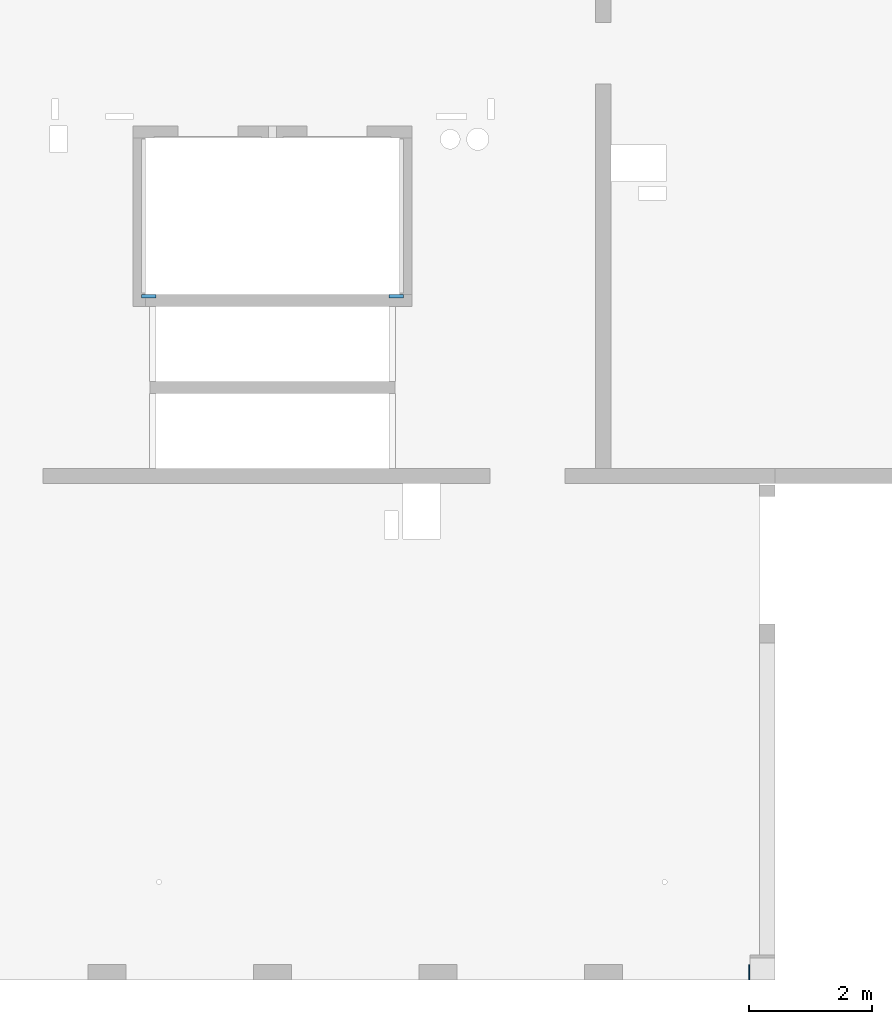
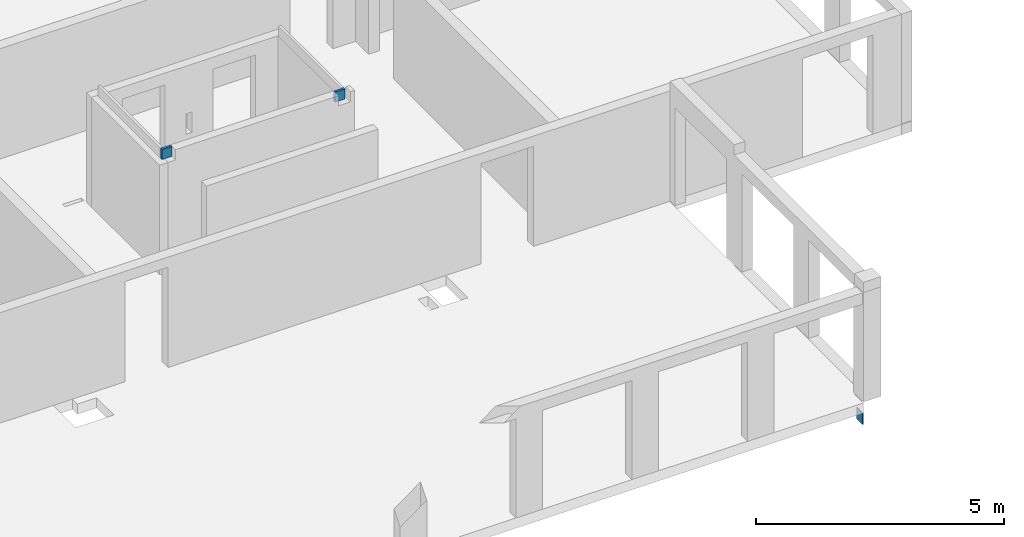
# One storey, part 5 of 8: 3 walls.
"""IFC2X3 building model written with IfcOpenShell, lengths in millimetres."""

from ifc_helpers import new_model, entity, si_unit, converted_unit, derived_unit, direction, frame, frame_2d, origin, place, context, subcontext, project, spatial, rectangle, extrude, material, layer, layer_set, layer_usage, type_object, element, save


model = new_model("IFC2X3")

# Units and contexts
model_context = context("Model", 3, precision=0.01, world=origin(), true_north=direction((6.12303176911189e-17, 1.0)))
body_context = subcontext(model_context, "Body", "Model", "MODEL_VIEW")
ifc_project = project(units=[si_unit("LENGTHUNIT", "METRE", prefix="MILLI"), si_unit("AREAUNIT", "SQUARE_METRE"), si_unit("VOLUMEUNIT", "CUBIC_METRE"), converted_unit("PLANEANGLEUNIT", "DEGREE", entity("IfcRatioMeasure", 0.0174532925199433), si_unit("PLANEANGLEUNIT", "RADIAN"), dimensions=[0, 0, 0, 0, 0, 0, 0]), si_unit("MASSUNIT", "GRAM", prefix="KILO"), derived_unit("MASSDENSITYUNIT", [(si_unit("MASSUNIT", "GRAM", prefix="KILO"), 1), (si_unit("LENGTHUNIT", "METRE"), -3)]), si_unit("TIMEUNIT", "SECOND"), si_unit("FREQUENCYUNIT", "HERTZ"), si_unit("THERMODYNAMICTEMPERATUREUNIT", "DEGREE_CELSIUS"), derived_unit("THERMALTRANSMITTANCEUNIT", [(si_unit("MASSUNIT", "GRAM", prefix="KILO"), 1), (si_unit("THERMODYNAMICTEMPERATUREUNIT", "KELVIN"), -1), (si_unit("TIMEUNIT", "SECOND"), -3)]), derived_unit("VOLUMETRICFLOWRATEUNIT", [(si_unit("LENGTHUNIT", "METRE"), 3), (si_unit("TIMEUNIT", "SECOND"), -1)]), si_unit("ELECTRICCURRENTUNIT", "AMPERE"), si_unit("ELECTRICVOLTAGEUNIT", "VOLT"), si_unit("POWERUNIT", "WATT"), si_unit("FORCEUNIT", "NEWTON", prefix="KILO"), si_unit("ILLUMINANCEUNIT", "LUX"), si_unit("LUMINOUSFLUXUNIT", "LUMEN"), si_unit("LUMINOUSINTENSITYUNIT", "CANDELA"), derived_unit("USERDEFINED", [(si_unit("MASSUNIT", "GRAM", prefix="KILO"), -1), (si_unit("LENGTHUNIT", "METRE"), -2), (si_unit("TIMEUNIT", "SECOND"), 3), (si_unit("LUMINOUSFLUXUNIT", "LUMEN"), 1)]), derived_unit("LINEARVELOCITYUNIT", [(si_unit("LENGTHUNIT", "METRE"), 1), (si_unit("TIMEUNIT", "SECOND"), -1)]), si_unit("PRESSUREUNIT", "PASCAL"), derived_unit("USERDEFINED", [(si_unit("LENGTHUNIT", "METRE"), -2), (si_unit("MASSUNIT", "GRAM", prefix="KILO"), 1), (si_unit("TIMEUNIT", "SECOND"), -2)])], contexts=[model_context])

# Site, building, storey
site_placement = place(None, origin())
site = spatial("IfcSite", under=ifc_project, at=site_placement, Name="Default", CompositionType="ELEMENT")
building_placement = place(site_placement, origin())
building = spatial("IfcBuilding", under=site, at=building_placement, Name="niet gebruiken", CompositionType="ELEMENT")
storey_placement = place(building_placement, frame((0.0, 0.0, 39330.0)))
storey = spatial("IfcBuildingStorey", under=building, at=storey_placement, Name="13 dertiende verdieping", CompositionType="ELEMENT", Elevation=39330.0)

# Walls
ifc_material_1 = material(Name="NLRS_f2_beton ihwg")
ifc_layer_1 = layer(ifc_material_1, 250.0)
ifc_layer_set_1 = layer_set([ifc_layer_1], Name="Basic Wall:NLRS_21.21_WA_beton ihwg d=250_gen")
ifc_layer_usage_1 = layer_usage(ifc_layer_set_1, "AXIS2", "NEGATIVE", 125.0)
wall_type_1 = type_object("IfcWallType", Name="Basic Wall:NLRS_21.21_WA_beton ihwg d=250_gen", PredefinedType="STANDARD", material=ifc_layer_set_1)
wall_1_placement = place(storey_placement, frame((50970.0, 28881.0, -620.0)))
element("IfcWallStandardCase", 1, at=wall_1_placement, inside=storey, type_object=wall_type_1, material=ifc_layer_usage_1, Name="Basic Wall:NLRS_21.21_WA_beton ihwg d=250_gen", ObjectType="Basic Wall:NLRS_21.21_WA_beton ihwg d=250_gen", context=body_context, shape_type="SweptSolid", body=[
    extrude(rectangle(XDim=19.999999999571, YDim=250.000000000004, at=frame_2d((9.99999999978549, 1.63424829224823e-13), x_axis=(-1.0, 0.0))), origin(), (0.0, 0.0, 1.0), 280.000000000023),
])
ifc_material_2 = material(Name="NLRS_f2_beton prefab")
ifc_layer_2 = layer(ifc_material_2, 60.0)
ifc_layer_set_2 = layer_set([ifc_layer_2], Name="Basic Wall:NLRS_22.21_WA_beton prefab d=60_gen")
ifc_layer_usage_2 = layer_usage(ifc_layer_set_2, "AXIS2", "NEGATIVE", 30.0)
wall_type_2 = type_object("IfcWallType", Name="Basic Wall:NLRS_22.21_WA_beton prefab d=60_gen", PredefinedType="STANDARD", material=ifc_layer_set_2)
wall_2_placement = place(storey_placement, frame((41065.0, 39916.0, 2630.0)))
element("IfcWallStandardCase", 2, at=wall_2_placement, inside=storey, type_object=wall_type_2, material=ifc_layer_usage_2, Name="Basic Wall:NLRS_22.21_WA_beton prefab d=60_gen", ObjectType="Basic Wall:NLRS_22.21_WA_beton prefab d=60_gen", context=body_context, shape_type="SweptSolid", body=[
    extrude(rectangle(XDim=234.999967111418, YDim=60.0000000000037, at=frame_2d((117.499983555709, -4.12292422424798e-12), x_axis=(-1.0, 0.0))), origin(), (0.0, 0.0, 1.0), 250.000000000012),
])
ifc_layer_usage_3 = layer_usage(ifc_layer_set_2, "AXIS2", "POSITIVE", -30.0)
wall_3_placement = place(storey_placement, frame((45335.0, 39916.0, 2630.0), z_axis=(0.0, 0.0, 1.0), x_axis=(-1.0, 0.0, 0.0)))
element("IfcWallStandardCase", 3, at=wall_3_placement, inside=storey, type_object=wall_type_2, material=ifc_layer_usage_3, Name="Basic Wall:NLRS_22.21_WA_beton prefab d=60_gen", ObjectType="Basic Wall:NLRS_22.21_WA_beton prefab d=60_gen", context=body_context, shape_type="SweptSolid", body=[
    extrude(rectangle(XDim=234.999967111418, YDim=60.0000000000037, at=frame_2d((117.499983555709, 4.12114786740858e-12), x_axis=(-1.0, 0.0))), origin(), (0.0, 0.0, 1.0), 250.000000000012),
])

save(model, "model.ifc")
